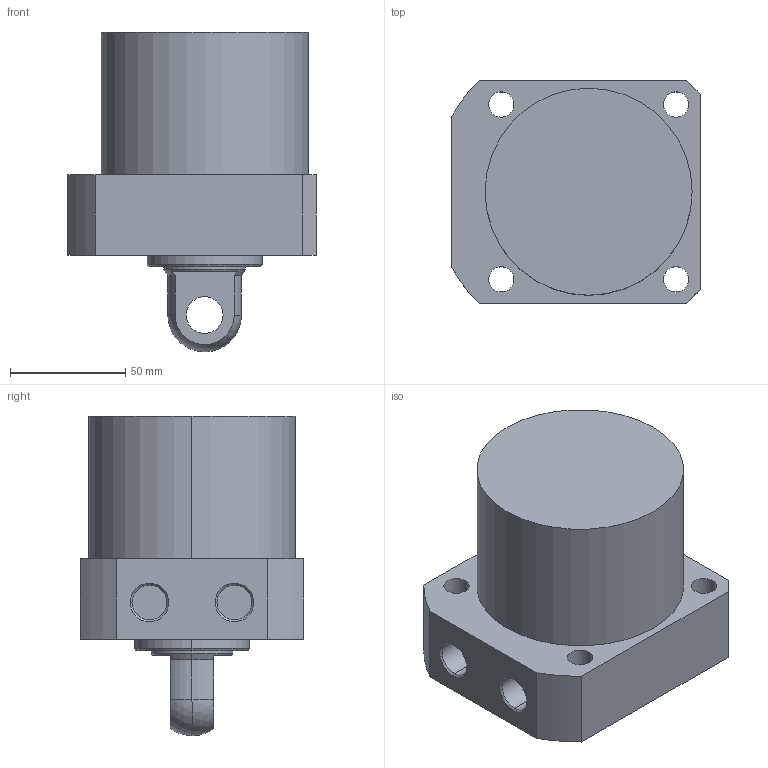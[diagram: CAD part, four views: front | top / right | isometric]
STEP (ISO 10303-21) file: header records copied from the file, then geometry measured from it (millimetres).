
FILE_DESCRIPTION (( 'STEP AP203' ), '1' );
FILE_NAME ('CLLR-090CP-040.STEP', '2019-12-19T03:23:03', ( '' ), ( '' ), 'SwSTEP 2.0', 'SolidWorks 2015', '' );
FILE_SCHEMA (( 'CONFIG_CONTROL_DESIGN' ));
Length unit declared in the file: millimetre
Products named in the file (1): CLLR-090CP-040
Bounding box: 108 x 97 x 139 mm (x, y, z)
Volume: 756899 mm3; surface area: 62229.7 mm2
Topology: 1 solids, 1 shells, 57 faces, 135 edges, 87 vertices
Faces by surface type: cylinder 29, plane 18, cone 8, sphere 2
Entity records: 1770 total; most frequent: DIRECTION 319, CARTESIAN_POINT 292, ORIENTED_EDGE 270, EDGE_CURVE 135, AXIS2_PLACEMENT_3D 130, VERTEX_POINT 87, EDGE_LOOP 74, CIRCLE 72
